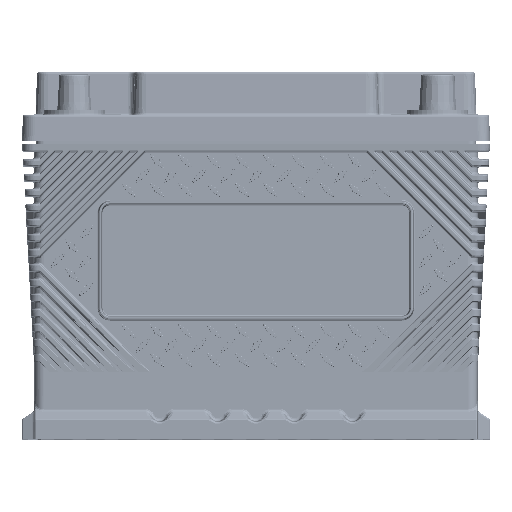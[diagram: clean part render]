
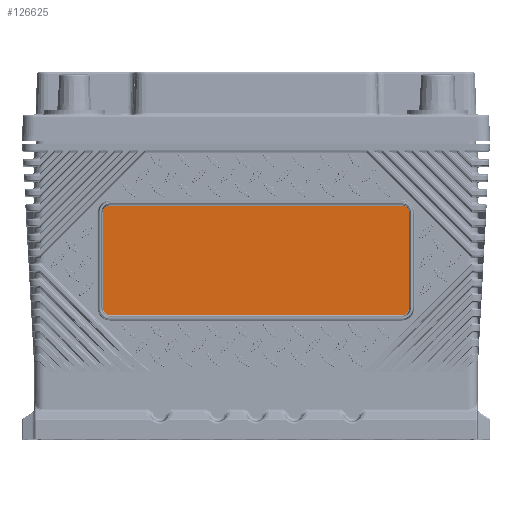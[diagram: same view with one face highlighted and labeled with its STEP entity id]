
A CAD part, top view. The second image highlights one B-rep face of the part: STEP entity #126625.
In plain terms, the highlighted planar face has unit normal (0, -0.001, 1).
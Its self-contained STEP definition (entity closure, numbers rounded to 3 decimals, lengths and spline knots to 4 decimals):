
#7945 = VERTEX_POINT ( 'NONE', #20197 ) ;
#20197 = CARTESIAN_POINT ( 'NONE',  ( -3.1042, 4.6065, 3.1873 ) ) ;
#28104 = VECTOR ( 'NONE', #30203, 39.3701 ) ;
#28175 = CARTESIAN_POINT ( 'NONE',  ( -4.498, 2.5258, 3.1851 ) ) ;
#30203 = DIRECTION ( 'NONE',  ( 1., 0., 0. ) ) ;
#40910 = VECTOR ( 'NONE', #376526, 39.3701 ) ;
#43104 = CARTESIAN_POINT ( 'NONE',  ( -3.1042, 2.6685, 3.1853 ) ) ;
#49467 = EDGE_CURVE ( 'NONE', #58739, #230958, #54469, .T. ) ;
#52515 = VERTEX_POINT ( 'NONE', #369261 ) ;
#54469 = LINE ( 'NONE', #115999, #225227 ) ;
#57419 = AXIS2_PLACEMENT_3D ( 'NONE', #144878, #208395, #333492 ) ;
#58739 = VERTEX_POINT ( 'NONE', #66054 ) ;
#62830 = LINE ( 'NONE', #380530, #40910 ) ;
#66054 = CARTESIAN_POINT ( 'NONE',  ( 2.9615, 4.7492, 3.1875 ) ) ;
#69186 = DIRECTION ( 'NONE',  ( 0., -0.001, 1. ) ) ;
#70401 = VERTEX_POINT ( 'NONE', #81586 ) ;
#70573 = CIRCLE ( 'NONE', #57419, 0.1427 ) ;
#80143 = AXIS2_PLACEMENT_3D ( 'NONE', #206167, #329257, #236961 ) ;
#81586 = CARTESIAN_POINT ( 'NONE',  ( 2.9615, 2.5258, 3.1851 ) ) ;
#93810 = VERTEX_POINT ( 'NONE', #246821 ) ;
#98808 = DIRECTION ( 'NONE',  ( 0., -0.001, 1. ) ) ;
#111953 = DIRECTION ( 'NONE',  ( -1., 0., 0. ) ) ;
#115999 = CARTESIAN_POINT ( 'NONE',  ( -4.498, 4.7492, 3.1875 ) ) ;
#126625 = ADVANCED_FACE ( 'NONE', ( #384816 ), #380810, .T. ) ;
#134256 = ORIENTED_EDGE ( 'NONE', *, *, #343884, .T. ) ;
#134996 = ORIENTED_EDGE ( 'NONE', *, *, #353575, .T. ) ;
#136746 = ORIENTED_EDGE ( 'NONE', *, *, #335573, .T. ) ;
#144878 = CARTESIAN_POINT ( 'NONE',  ( -2.9615, 2.6685, 3.1853 ) ) ;
#182464 = ORIENTED_EDGE ( 'NONE', *, *, #280744, .T. ) ;
#191045 = DIRECTION ( 'NONE',  ( 0., -1., -0.001 ) ) ;
#204673 = LINE ( 'NONE', #231428, #230358 ) ;
#206167 = CARTESIAN_POINT ( 'NONE',  ( 2.9615, 4.6065, 3.1873 ) ) ;
#208395 = DIRECTION ( 'NONE',  ( 0., -0.001, 1. ) ) ;
#212124 = ORIENTED_EDGE ( 'NONE', *, *, #309540, .T. ) ;
#214746 = LINE ( 'NONE', #28175, #28104 ) ;
#219445 = EDGE_LOOP ( 'NONE', ( #308592, #136746, #134996, #324042, #212124, #182464, #345146, #134256 ) ) ;
#225000 = CARTESIAN_POINT ( 'NONE',  ( 3.1042, 2.6685, 3.1853 ) ) ;
#225227 = VECTOR ( 'NONE', #111953, 39.3701 ) ;
#226910 = AXIS2_PLACEMENT_3D ( 'NONE', #320127, #98808, #191045 ) ;
#226916 = DIRECTION ( 'NONE',  ( 0., -1., -0.001 ) ) ;
#227182 = CIRCLE ( 'NONE', #226910, 0.1427 ) ;
#230358 = VECTOR ( 'NONE', #297062, 39.3701 ) ;
#230958 = VERTEX_POINT ( 'NONE', #322717 ) ;
#231428 = CARTESIAN_POINT ( 'NONE',  ( 3.1042, 0., 3.1825 ) ) ;
#236961 = DIRECTION ( 'NONE',  ( 0., -1., -0.001 ) ) ;
#246821 = CARTESIAN_POINT ( 'NONE',  ( -2.9615, 2.5258, 3.1851 ) ) ;
#253974 = VERTEX_POINT ( 'NONE', #43104 ) ;
#259142 = DIRECTION ( 'NONE',  ( 0., -0.001, 1. ) ) ;
#259161 = EDGE_CURVE ( 'NONE', #7945, #253974, #62830, .T. ) ;
#261845 = VERTEX_POINT ( 'NONE', #225000 ) ;
#280744 = EDGE_CURVE ( 'NONE', #52515, #58739, #289692, .T. ) ;
#289692 = CIRCLE ( 'NONE', #80143, 0.1427 ) ;
#294525 = CARTESIAN_POINT ( 'NONE',  ( -4.498, 0., 3.1825 ) ) ;
#297062 = DIRECTION ( 'NONE',  ( 0., 1., 0.001 ) ) ;
#308592 = ORIENTED_EDGE ( 'NONE', *, *, #259161, .T. ) ;
#309540 = EDGE_CURVE ( 'NONE', #261845, #52515, #204673, .T. ) ;
#311143 = CARTESIAN_POINT ( 'NONE',  ( 2.9615, 2.6685, 3.1853 ) ) ;
#320127 = CARTESIAN_POINT ( 'NONE',  ( -2.9615, 4.6065, 3.1873 ) ) ;
#322717 = CARTESIAN_POINT ( 'NONE',  ( -2.9615, 4.7492, 3.1875 ) ) ;
#324042 = ORIENTED_EDGE ( 'NONE', *, *, #402821, .T. ) ;
#329257 = DIRECTION ( 'NONE',  ( 0., -0.001, 1. ) ) ;
#333492 = DIRECTION ( 'NONE',  ( 0., -1., -0.001 ) ) ;
#335573 = EDGE_CURVE ( 'NONE', #253974, #93810, #70573, .T. ) ;
#343884 = EDGE_CURVE ( 'NONE', #230958, #7945, #227182, .T. ) ;
#345146 = ORIENTED_EDGE ( 'NONE', *, *, #49467, .T. ) ;
#347970 = AXIS2_PLACEMENT_3D ( 'NONE', #311143, #259142, #384232 ) ;
#353575 = EDGE_CURVE ( 'NONE', #93810, #70401, #214746, .T. ) ;
#359672 = AXIS2_PLACEMENT_3D ( 'NONE', #294525, #69186, #226916 ) ;
#369261 = CARTESIAN_POINT ( 'NONE',  ( 3.1042, 4.6065, 3.1873 ) ) ;
#376526 = DIRECTION ( 'NONE',  ( 0., -1., -0.001 ) ) ;
#380530 = CARTESIAN_POINT ( 'NONE',  ( -3.1042, 0., 3.1825 ) ) ;
#380717 = CIRCLE ( 'NONE', #347970, 0.1427 ) ;
#380810 = PLANE ( 'NONE',  #359672 ) ;
#384232 = DIRECTION ( 'NONE',  ( 0., -1., -0.001 ) ) ;
#384816 = FACE_OUTER_BOUND ( 'NONE', #219445, .T. ) ;
#402821 = EDGE_CURVE ( 'NONE', #70401, #261845, #380717, .T. ) ;
